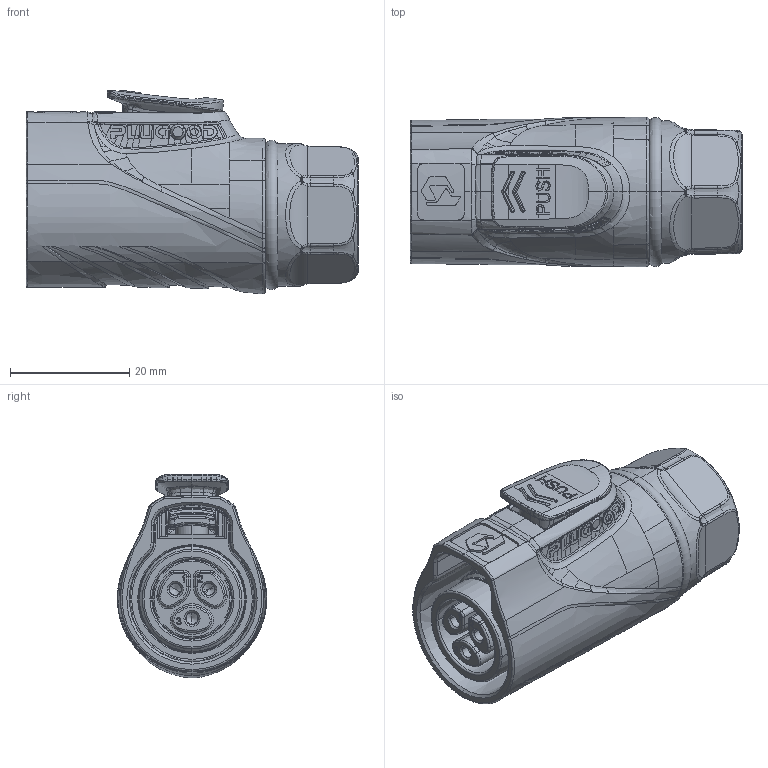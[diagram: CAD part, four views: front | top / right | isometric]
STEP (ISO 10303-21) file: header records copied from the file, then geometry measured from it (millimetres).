
FILE_DESCRIPTION (( 'STEP AP203' ), '1' );
FILE_NAME ('PLG16 3郋眻芛脣芛毀蚾.STEP', '2025-11-17T06:16:33', ( '' ), ( '' ), 'SwSTEP 2.0', 'SolidWorks 2024', '' );
FILE_SCHEMA (( 'CONFIG_CONTROL_DESIGN' ));
Length unit declared in the file: millimetre
Products named in the file (1): PLG16 3芯直头插头反装
Bounding box: 55.6 x 24.99 x 34.16 mm (x, y, z)
Volume: 24524.8 mm3; surface area: 11276.3 mm2
Topology: 2 solids, 4 shells, 1399 faces, 3775 edges, 2391 vertices
Faces by surface type: bspline 702, plane 303, cylinder 203, torus 111, cone 78, sphere 2
Entity records: 100006 total; most frequent: CARTESIAN_POINT 70861, ORIENTED_EDGE 7522, DIRECTION 3874, EDGE_CURVE 3761, VERTEX_POINT 2391, B_SPLINE_CURVE_WITH_KNOTS 1969, AXIS2_PLACEMENT_3D 1451, EDGE_LOOP 1442
